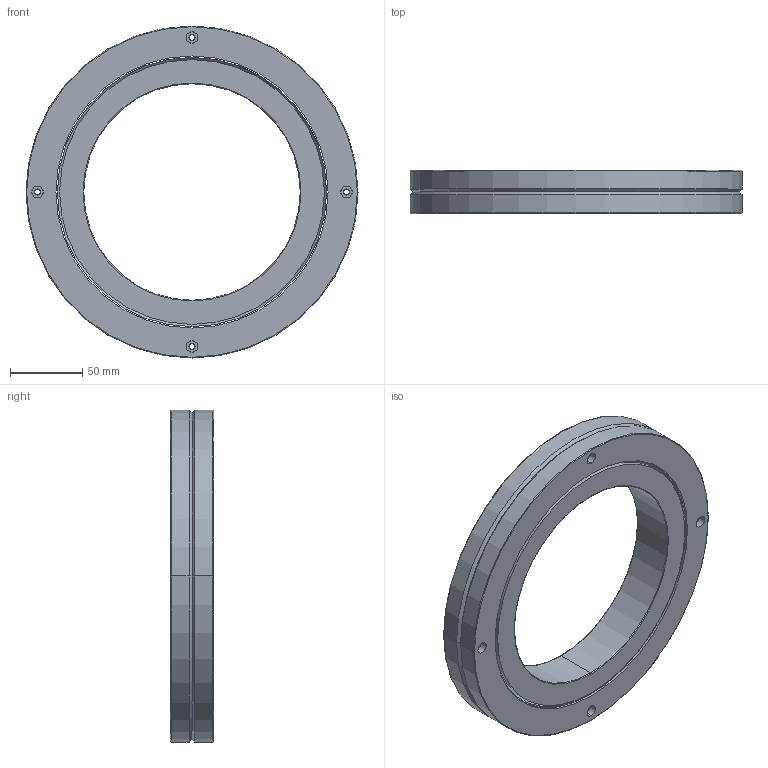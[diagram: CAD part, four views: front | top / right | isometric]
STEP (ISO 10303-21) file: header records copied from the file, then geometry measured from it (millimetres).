
FILE_DESCRIPTION((''),'2;1');
FILE_NAME('RB15030','2018-03-01T',('Administrator'),(''),'PRO/ENGINEER BY PARAMETRIC TECHNOLOGY CORPORATION, 2010180','PRO/ENGINEER BY PARAMETRIC TECHNOLOGY CORPORATION, 2010180','');
FILE_SCHEMA(('AUTOMOTIVE_DESIGN_CC2 { 1 2 10303 214 -1 1 5 2 }'));
Length unit declared in the file: millimetre
Products named in the file (1): RB15030
Bounding box: 230 x 30 x 230 mm (x, y, z)
Volume: 596897.2 mm3; surface area: 139227.1 mm2
Topology: 2 solids, 2 shells, 90 faces, 188 edges, 114 vertices
Faces by surface type: cylinder 50, plane 16, cone 16, torus 8
Entity records: 2537 total; most frequent: DIRECTION 490, CARTESIAN_POINT 392, ORIENTED_EDGE 376, AXIS2_PLACEMENT_3D 212, EDGE_CURVE 188, CIRCLE 122, VERTEX_POINT 114, EDGE_LOOP 114
